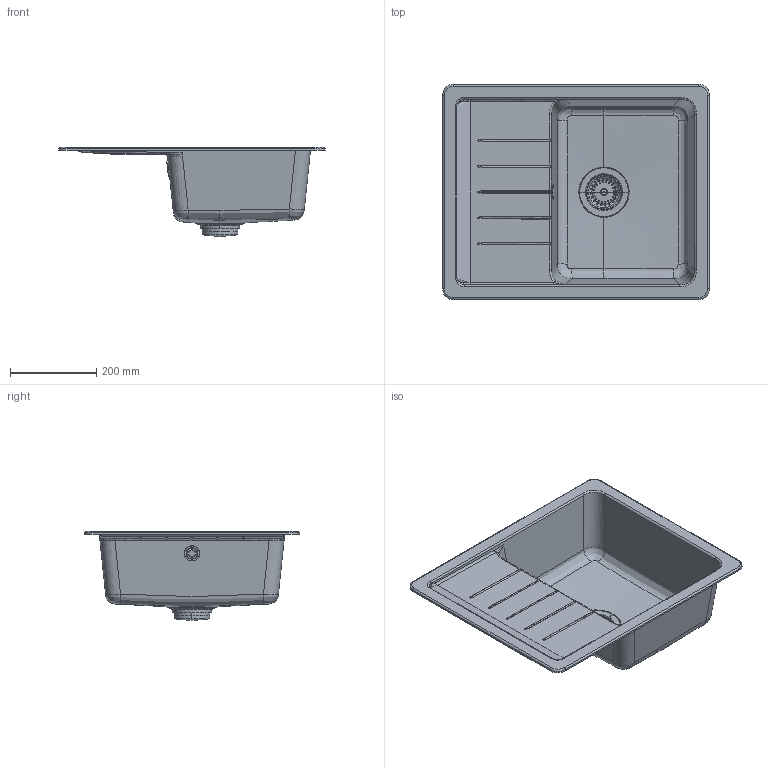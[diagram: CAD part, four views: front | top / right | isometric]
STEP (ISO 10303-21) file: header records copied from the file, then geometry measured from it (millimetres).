
FILE_DESCRIPTION(/* description */ (''),/* implementation_level */ '2;1');
FILE_NAME(/* name */ 'TOLD100XS',/* time_stamp */ '2021-03-09T17:13:54+01:00',/* author */ (''),/* organization */ (''),/* preprocessor_version */ 'ST-DEVELOPER v15',/* originating_system */ '',/* authorisation */ '');
FILE_SCHEMA (('AUTOMOTIVE_DESIGN_CC2'));
Length unit declared in the file: millimetre
Products named in the file (1): Document
Bounding box: 620 x 500 x 207.23 mm (x, y, z)
Volume: 32454.7 mm3; surface area: 565746.9 mm2
Topology: 4 solids, 5 shells, 328 faces, 959 edges, 591 vertices
Faces by surface type: bspline 312, plane 16
Entity records: 56836 total; most frequent: CARTESIAN_POINT 51510, ORIENTED_EDGE 1886, EDGE_CURVE 949, B_SPLINE_CURVE_WITH_KNOTS 634, VERTEX_POINT 591, EDGE_LOOP 415, ADVANCED_FACE 328, FACE_OUTER_BOUND 328
